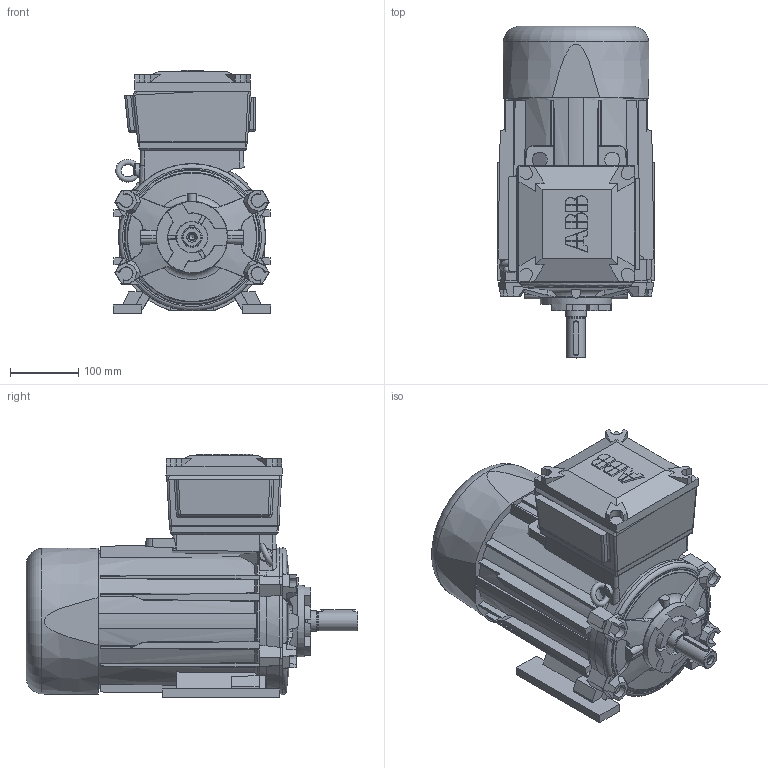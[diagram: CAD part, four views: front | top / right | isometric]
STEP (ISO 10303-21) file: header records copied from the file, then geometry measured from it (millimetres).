
FILE_DESCRIPTION(/* description */ (''),/* implementation_level */ '2;1');
FILE_NAME(/* name */ '3GZF500211-74_stp.stp',/* time_stamp */ '2018-10-22T08:35:43+03:00',/* author */ (''),/* organization */ (''),/* preprocessor_version */ 'ST-DEVELOPER v16',/* originating_system */ 'SIEMENS PLM Software NX 10.0',/* authorisation */ '');
FILE_SCHEMA (('AUTOMOTIVE_DESIGN { 1 0 10303 214 3 1 1 1 }'));
Length unit declared in the file: millimetre
Products named in the file (1): HAGE56F06513zg7p
Bounding box: 230 x 485 x 356 mm (x, y, z)
Volume: 17583211.5 mm3; surface area: 613608.6 mm2
Topology: 1 solids, 7 shells, 707 faces, 1901 edges, 1221 vertices
Faces by surface type: plane 452, cone 117, cylinder 77, torus 30, sphere 16, bspline 15
Full cylindrical faces by diameter (mm): 8.5 x1, 10.5 x1, 20 x1, 22 x2, 27.603 x1, 28.003 x1, 29.607 x1, 29.974 x2, 30.007 x1
Entity records: 22929 total; most frequent: CARTESIAN_POINT 5884, ORIENTED_EDGE 3702, DIRECTION 3227, EDGE_CURVE 1851, VERTEX_POINT 1210, AXIS2_PLACEMENT_3D 1111, LINE 1005, VECTOR 1005
